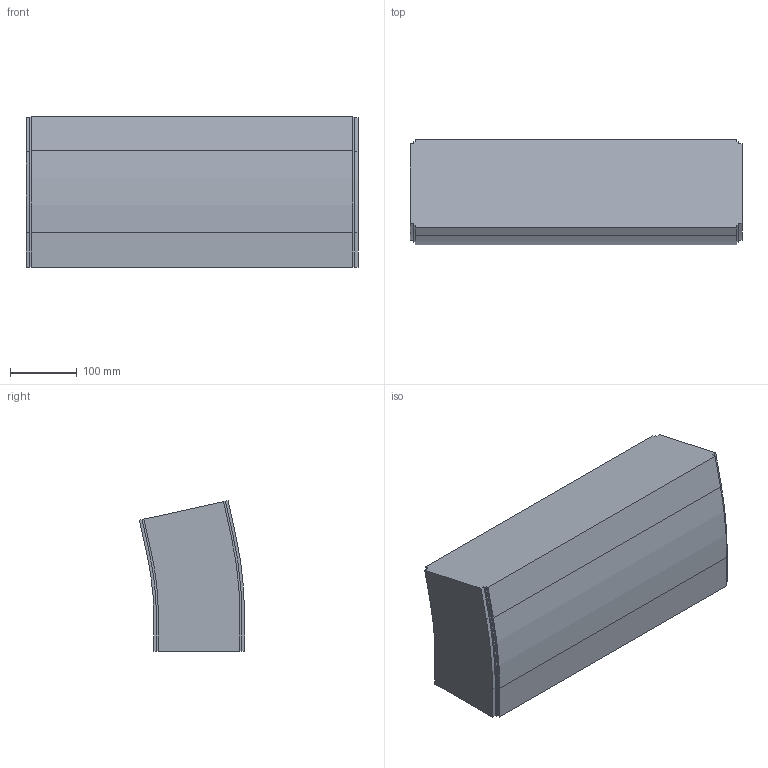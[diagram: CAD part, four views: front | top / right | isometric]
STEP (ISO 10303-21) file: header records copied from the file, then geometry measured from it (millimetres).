
FILE_DESCRIPTION (( 'STEP AP214' ), '1' );
FILE_NAME ('FS-MTC2-150-INOX verticaalbocht.500 12,5°.STEP', '2017-02-08T12:42:18', ( '' ), ( '' ), 'SwSTEP 2.0', 'SolidWorks 2016', '' );
FILE_SCHEMA (( 'AUTOMOTIVE_DESIGN' ));
Length unit declared in the file: millimetre
Products named in the file (1): FS-MTC2-150-INOX verticaalbocht.500 12,5°
Bounding box: 499 x 158.1 x 226.75 mm (x, y, z)
Volume: 14538446.1 mm3; surface area: 407920.2 mm2
Topology: 1 solids, 1 shells, 42 faces, 120 edges, 80 vertices
Faces by surface type: plane 32, cylinder 10
Entity records: 1398 total; most frequent: CARTESIAN_POINT 243, ORIENTED_EDGE 240, DIRECTION 226, EDGE_CURVE 120, VECTOR 100, LINE 100, VERTEX_POINT 80, AXIS2_PLACEMENT_3D 63
